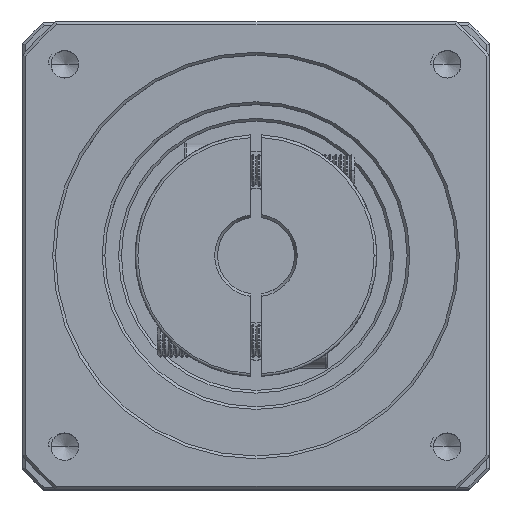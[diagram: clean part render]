
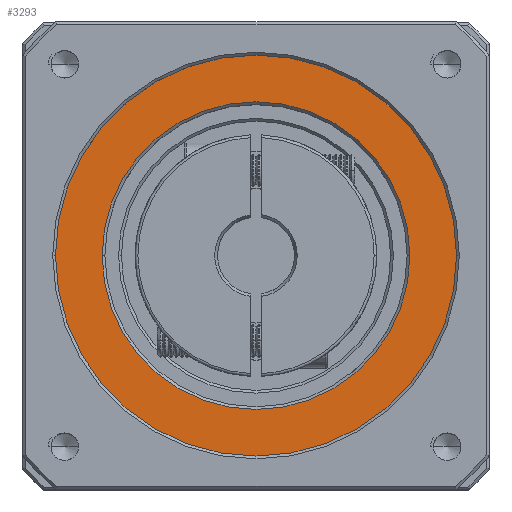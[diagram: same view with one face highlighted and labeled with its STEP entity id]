
A CAD part, top view. The second image highlights one B-rep face of the part: STEP entity #3293.
In plain terms, the highlighted planar face has unit normal (0, 0, 1).
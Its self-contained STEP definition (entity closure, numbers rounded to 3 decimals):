
#216 = EDGE_CURVE ( 'NONE', #71707, #103691, #30842, .T. ) ;
#2449 = CARTESIAN_POINT ( 'NONE',  ( -53.656, 13.979, -5.829 ) ) ;
#3293 = ADVANCED_FACE ( 'NONE', ( #43911, #114424 ), #28724, .T. ) ;
#3299 = CARTESIAN_POINT ( 'NONE',  ( -81.656, 13.979, -5.829 ) ) ;
#5716 = DIRECTION ( 'NONE',  ( 0., 0., -1. ) ) ;
#6111 = DIRECTION ( 'NONE',  ( 1., 0., 0. ) ) ;
#13738 = CIRCLE ( 'NONE', #56529, 28. ) ;
#18285 = AXIS2_PLACEMENT_3D ( 'NONE', #114923, #46412, #6111 ) ;
#21694 = DIRECTION ( 'NONE',  ( 1., 0., 0. ) ) ;
#22945 = ORIENTED_EDGE ( 'NONE', *, *, #216, .T. ) ;
#24696 = AXIS2_PLACEMENT_3D ( 'NONE', #48809, #29154, #97245 ) ;
#28724 = PLANE ( 'NONE',  #24696 ) ;
#29154 = DIRECTION ( 'NONE',  ( 0., 0., 1. ) ) ;
#29895 = EDGE_LOOP ( 'NONE', ( #78208, #79937 ) ) ;
#30842 = CIRCLE ( 'NONE', #55483, 28. ) ;
#41096 = DIRECTION ( 'NONE',  ( 0., 0., 1. ) ) ;
#43911 = FACE_OUTER_BOUND ( 'NONE', #29895, .T. ) ;
#46412 = DIRECTION ( 'NONE',  ( 0., 0., 1. ) ) ;
#48382 = EDGE_CURVE ( 'NONE', #60899, #124515, #56148, .T. ) ;
#48809 = CARTESIAN_POINT ( 'NONE',  ( -53.656, 13.979, -5.829 ) ) ;
#54949 = EDGE_CURVE ( 'NONE', #124515, #60899, #58222, .T. ) ;
#55483 = AXIS2_PLACEMENT_3D ( 'NONE', #2449, #80383, #21694 ) ;
#56148 = CIRCLE ( 'NONE', #18285, 36.5 ) ;
#56529 = AXIS2_PLACEMENT_3D ( 'NONE', #84593, #5716, #112820 ) ;
#58222 = CIRCLE ( 'NONE', #98501, 36.5 ) ;
#59846 = EDGE_LOOP ( 'NONE', ( #22945, #90232 ) ) ;
#60210 = CARTESIAN_POINT ( 'NONE',  ( -17.156, 13.979, -5.829 ) ) ;
#60899 = VERTEX_POINT ( 'NONE', #105533 ) ;
#71707 = VERTEX_POINT ( 'NONE', #98636 ) ;
#74145 = EDGE_CURVE ( 'NONE', #103691, #71707, #13738, .T. ) ;
#78208 = ORIENTED_EDGE ( 'NONE', *, *, #54949, .T. ) ;
#79937 = ORIENTED_EDGE ( 'NONE', *, *, #48382, .T. ) ;
#80383 = DIRECTION ( 'NONE',  ( 0., 0., -1. ) ) ;
#84593 = CARTESIAN_POINT ( 'NONE',  ( -53.656, 13.979, -5.829 ) ) ;
#90232 = ORIENTED_EDGE ( 'NONE', *, *, #74145, .T. ) ;
#97245 = DIRECTION ( 'NONE',  ( 1., 0., 0. ) ) ;
#98501 = AXIS2_PLACEMENT_3D ( 'NONE', #109987, #41096, #119446 ) ;
#98636 = CARTESIAN_POINT ( 'NONE',  ( -25.656, 13.979, -5.829 ) ) ;
#103691 = VERTEX_POINT ( 'NONE', #3299 ) ;
#105533 = CARTESIAN_POINT ( 'NONE',  ( -90.156, 13.979, -5.829 ) ) ;
#109987 = CARTESIAN_POINT ( 'NONE',  ( -53.656, 13.979, -5.829 ) ) ;
#112820 = DIRECTION ( 'NONE',  ( 1., 0., 0. ) ) ;
#114424 = FACE_BOUND ( 'NONE', #59846, .T. ) ;
#114923 = CARTESIAN_POINT ( 'NONE',  ( -53.656, 13.979, -5.829 ) ) ;
#119446 = DIRECTION ( 'NONE',  ( 1., 0., 0. ) ) ;
#124515 = VERTEX_POINT ( 'NONE', #60210 ) ;
